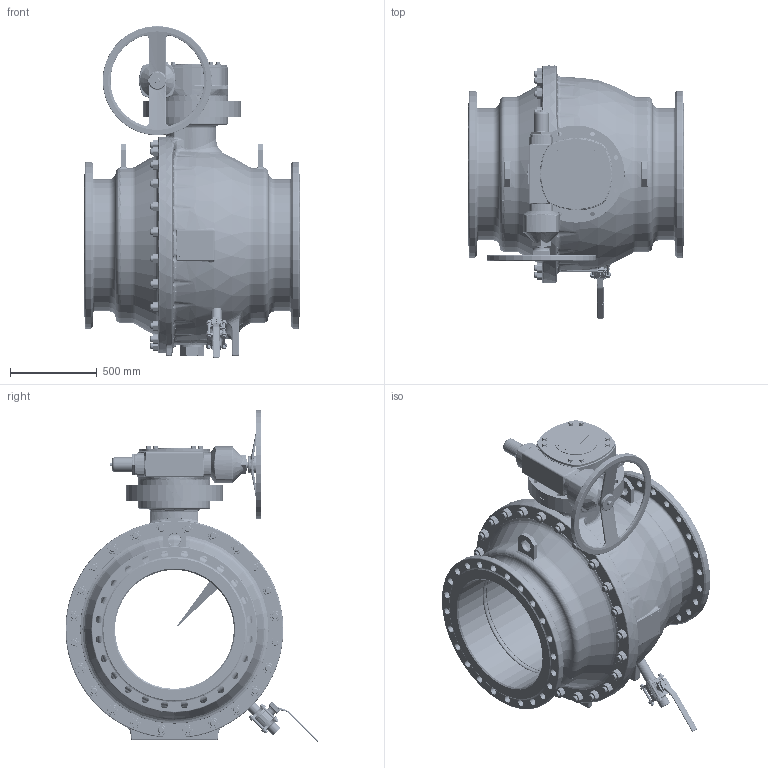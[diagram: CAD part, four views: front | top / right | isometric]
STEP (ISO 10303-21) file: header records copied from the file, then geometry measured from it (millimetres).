
FILE_DESCRIPTION((''),'2;1');
FILE_NAME('KHIFL700VFL700P025MKK_SW0001','2014-09-04T',('schwaba'),('RAND'),'PRO/ENGINEER BY PARAMETRIC TECHNOLOGY CORPORATION, 2013410','PRO/ENGINEER BY PARAMETRIC TECHNOLOGY CORPORATION, 2013410','');
FILE_SCHEMA(('CONFIG_CONTROL_DESIGN'));
Products named in the file (1): KHIFL700VFL700P025MKK_SW0001
Bounding box: 1245 x 1457.55 x 1913.21 mm (x, y, z)
Volume: 408300628.6 mm3; surface area: 21652648.9 mm2
Topology: 2 solids, 16 shells, 6214 faces, 15784 edges, 9701 vertices
Faces by surface type: plane 2460, cylinder 1426, cone 831, bspline 751, torus 683, sphere 63
Entity records: 375847 total; most frequent: CARTESIAN_POINT 230949, ORIENTED_EDGE 31396, DIRECTION 29111, EDGE_CURVE 15698, AXIS2_PLACEMENT_3D 11038, VERTEX_POINT 9701, VECTOR 7035, LINE 7035
